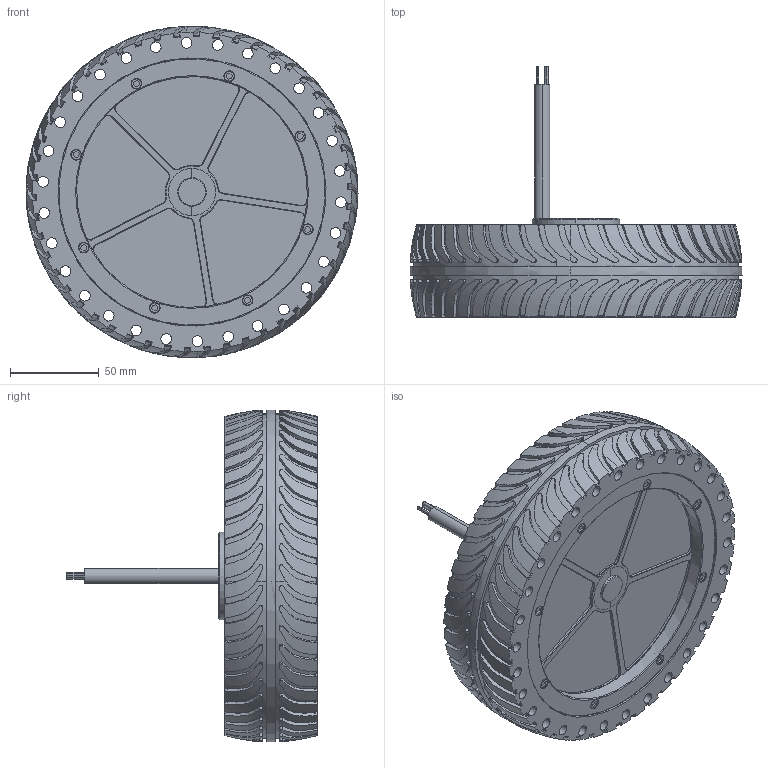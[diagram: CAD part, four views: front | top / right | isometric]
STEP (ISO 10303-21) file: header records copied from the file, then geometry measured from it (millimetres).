
FILE_DESCRIPTION (( 'STEP AP203' ), '1' );
FILE_NAME ('M1502D_233 萇儂軞傖.STEP', '2023-04-07T07:07:41', ( '' ), ( '' ), 'SwSTEP 2.0', 'SolidWorks 2018', '' );
FILE_SCHEMA (( 'CONFIG_CONTROL_DESIGN' ));
Products named in the file (1): M1502D_233 萇儂軞傖
Bounding box: 186.93 x 141.11 x 186.87 mm (x, y, z)
Volume: 1144545 mm3; surface area: 139868.9 mm2
Topology: 1 solids, 16 shells, 1944 faces, 5315 edges, 3451 vertices
Faces by surface type: bspline 602, cone 436, cylinder 404, plane 350, sphere 118, torus 34
Entity records: 159098 total; most frequent: CARTESIAN_POINT 114998, ORIENTED_EDGE 10616, DIRECTION 7349, EDGE_CURVE 5308, VERTEX_POINT 3448, AXIS2_PLACEMENT_3D 3055, B_SPLINE_CURVE_WITH_KNOTS 2355, EDGE_LOOP 2090
